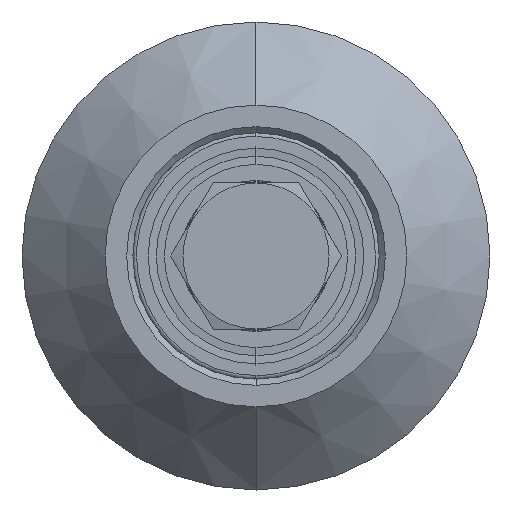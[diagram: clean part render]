
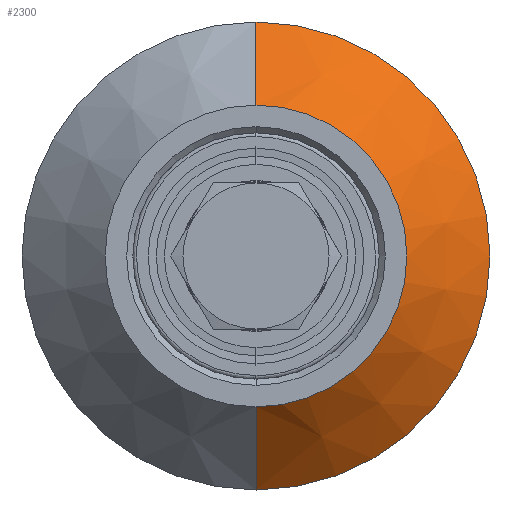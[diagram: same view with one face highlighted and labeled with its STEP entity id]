
A CAD part, left-side view. The second image highlights one B-rep face of the part: STEP entity #2300.
In plain terms, the highlighted conical face has half-angle 45 degrees and reference radius 38 mm.
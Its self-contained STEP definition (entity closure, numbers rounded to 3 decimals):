
#731 = CARTESIAN_POINT ( 'NONE',  ( 4., 0., 24.5 ) ) ;
#733 = CARTESIAN_POINT ( 'NONE',  ( 17.5, 0., -38. ) ) ;
#736 = CARTESIAN_POINT ( 'NONE',  ( 17.5, 0., 38. ) ) ;
#890 = CARTESIAN_POINT ( 'NONE',  ( 4., 0., -24.5 ) ) ;
#1359 = VECTOR ( 'NONE', #2467, 1000. ) ;
#1361 = VECTOR ( 'NONE', #2460, 1000. ) ;
#1362 = LINE ( 'NONE', #2465, #1359 ) ;
#1365 = LINE ( 'NONE', #2461, #1361 ) ;
#1370 = CIRCLE ( 'NONE', #4904, 24.5 ) ;
#1383 = CIRCLE ( 'NONE', #5212, 38. ) ;
#1594 = EDGE_LOOP ( 'NONE', ( #6952, #6953, #6954, #6955 ) ) ;
#2300 = ADVANCED_FACE ( 'NONE', ( #4331 ), #4320, .T. ) ;
#2460 = DIRECTION ( 'NONE',  ( 0.707, 0., -0.707 ) ) ;
#2461 = CARTESIAN_POINT ( 'NONE',  ( 17.5, 0., -38. ) ) ;
#2462 = CARTESIAN_POINT ( 'NONE',  ( 4., 0., 0. ) ) ;
#2463 = DIRECTION ( 'NONE',  ( 1., 0., 0. ) ) ;
#2464 = DIRECTION ( 'NONE',  ( 0., 0., 1. ) ) ;
#2465 = CARTESIAN_POINT ( 'NONE',  ( 17.5, 0., 38. ) ) ;
#2467 = DIRECTION ( 'NONE',  ( 0.707, 0., 0.707 ) ) ;
#3768 = CARTESIAN_POINT ( 'NONE',  ( 17.5, 0., 0. ) ) ;
#3769 = DIRECTION ( 'NONE',  ( 1., 0., 0. ) ) ;
#3778 = DIRECTION ( 'NONE',  ( 0., 0., 1. ) ) ;
#4320 = CONICAL_SURFACE ( 'NONE', #4509, 38., 0.785 ) ;
#4331 = FACE_OUTER_BOUND ( 'NONE', #1594, .T. ) ;
#4509 = AXIS2_PLACEMENT_3D ( 'NONE', #3768, #3769, #3778 ) ;
#4817 = EDGE_CURVE ( 'NONE', #7098, #7095, #1383, .T. ) ;
#4829 = EDGE_CURVE ( 'NONE', #7093, #7252, #1370, .T. ) ;
#4830 = EDGE_CURVE ( 'NONE', #7252, #7095, #1365, .T. ) ;
#4831 = EDGE_CURVE ( 'NONE', #7093, #7098, #1362, .T. ) ;
#4904 = AXIS2_PLACEMENT_3D ( 'NONE', #2462, #2463, #2464 ) ;
#5212 = AXIS2_PLACEMENT_3D ( 'NONE', #6611, #6612, #6613 ) ;
#6611 = CARTESIAN_POINT ( 'NONE',  ( 17.5, 0., 0. ) ) ;
#6612 = DIRECTION ( 'NONE',  ( 1., 0., 0. ) ) ;
#6613 = DIRECTION ( 'NONE',  ( 0., 0., -1. ) ) ;
#6952 = ORIENTED_EDGE ( 'NONE', *, *, #4829, .T. ) ;
#6953 = ORIENTED_EDGE ( 'NONE', *, *, #4830, .T. ) ;
#6954 = ORIENTED_EDGE ( 'NONE', *, *, #4817, .F. ) ;
#6955 = ORIENTED_EDGE ( 'NONE', *, *, #4831, .F. ) ;
#7093 = VERTEX_POINT ( 'NONE', #731 ) ;
#7095 = VERTEX_POINT ( 'NONE', #733 ) ;
#7098 = VERTEX_POINT ( 'NONE', #736 ) ;
#7252 = VERTEX_POINT ( 'NONE', #890 ) ;
